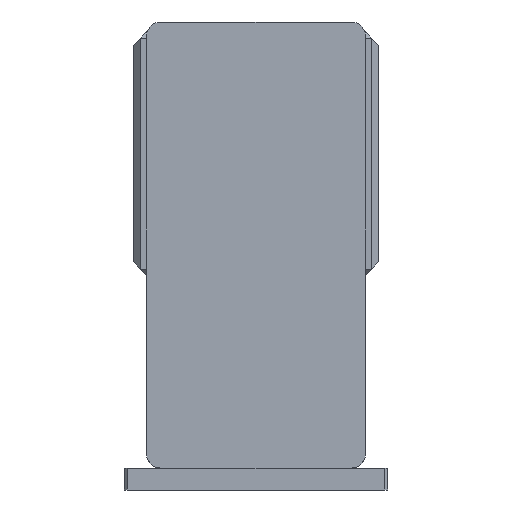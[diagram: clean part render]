
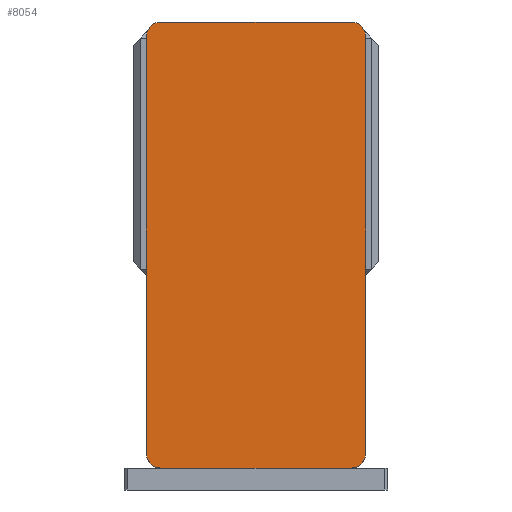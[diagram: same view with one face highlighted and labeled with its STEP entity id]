
A CAD part, left-side view. The second image highlights one B-rep face of the part: STEP entity #8054.
In plain terms, the highlighted planar face has unit normal (-1, 0, 0) as drawn and (0, 0, 1) by its records, which use the part's own axes.
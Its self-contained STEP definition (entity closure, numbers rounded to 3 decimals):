
#161 = EDGE_CURVE ( 'NONE', #5710, #7046, #5754, .T. ) ;
#173 = EDGE_CURVE ( 'NONE', #8899, #3454, #3217, .T. ) ;
#189 = EDGE_CURVE ( 'NONE', #3679, #5710, #2955, .T. ) ;
#249 = EDGE_CURVE ( 'NONE', #2579, #8899, #9543, .T. ) ;
#270 = EDGE_CURVE ( 'NONE', #9433, #1104, #309, .T. ) ;
#309 = CIRCLE ( 'NONE', #3494, 10. ) ;
#336 = EDGE_CURVE ( 'NONE', #3454, #3679, #4158, .T. ) ;
#606 = VECTOR ( 'NONE', #8325, 1000. ) ;
#644 = CARTESIAN_POINT ( 'NONE',  ( 65., 152.5, 105. ) ) ;
#1053 = CARTESIAN_POINT ( 'NONE',  ( 65., -152.5, 105. ) ) ;
#1104 = VERTEX_POINT ( 'NONE', #3841 ) ;
#1120 = EDGE_LOOP ( 'NONE', ( #3099, #5139, #6514, #4836, #9006, #8127, #9709, #6481 ) ) ;
#1284 = LINE ( 'NONE', #7923, #3315 ) ;
#1337 = CARTESIAN_POINT ( 'NONE',  ( 75., -142.5, 105. ) ) ;
#1547 = PLANE ( 'NONE',  #6896 ) ;
#1662 = CARTESIAN_POINT ( 'NONE',  ( 75., 142.5, 105. ) ) ;
#2043 = CARTESIAN_POINT ( 'NONE',  ( -75., -142.5, 105. ) ) ;
#2254 = CARTESIAN_POINT ( 'NONE',  ( -75., 142.5, 105. ) ) ;
#2354 = DIRECTION ( 'NONE',  ( 1., 0., 0. ) ) ;
#2392 = DIRECTION ( 'NONE',  ( 0., 0., 1. ) ) ;
#2413 = CARTESIAN_POINT ( 'NONE',  ( 0., 0., 105. ) ) ;
#2469 = CARTESIAN_POINT ( 'NONE',  ( 65., 142.5, 105. ) ) ;
#2535 = CARTESIAN_POINT ( 'NONE',  ( -65., 152.5, 105. ) ) ;
#2579 = VERTEX_POINT ( 'NONE', #1053 ) ;
#2779 = DIRECTION ( 'NONE',  ( 1., 0., 0. ) ) ;
#2955 = LINE ( 'NONE', #10574, #606 ) ;
#3099 = ORIENTED_EDGE ( 'NONE', *, *, #11069, .T. ) ;
#3217 = LINE ( 'NONE', #9428, #7784 ) ;
#3277 = DIRECTION ( 'NONE',  ( 0., 0., 1. ) ) ;
#3305 = FACE_OUTER_BOUND ( 'NONE', #1120, .T. ) ;
#3315 = VECTOR ( 'NONE', #2779, 1000. ) ;
#3342 = AXIS2_PLACEMENT_3D ( 'NONE', #2469, #2392, #2354 ) ;
#3454 = VERTEX_POINT ( 'NONE', #1662 ) ;
#3494 = AXIS2_PLACEMENT_3D ( 'NONE', #4613, #4571, #4545 ) ;
#3637 = AXIS2_PLACEMENT_3D ( 'NONE', #5945, #5907, #5841 ) ;
#3679 = VERTEX_POINT ( 'NONE', #644 ) ;
#3841 = CARTESIAN_POINT ( 'NONE',  ( -65., -152.5, 105. ) ) ;
#3872 = AXIS2_PLACEMENT_3D ( 'NONE', #4874, #8360, #10948 ) ;
#4158 = CIRCLE ( 'NONE', #3342, 10. ) ;
#4215 = VECTOR ( 'NONE', #8345, 1000. ) ;
#4545 = DIRECTION ( 'NONE',  ( 1., 0., 0. ) ) ;
#4571 = DIRECTION ( 'NONE',  ( 0., 0., 1. ) ) ;
#4613 = CARTESIAN_POINT ( 'NONE',  ( -65., -142.5, 105. ) ) ;
#4836 = ORIENTED_EDGE ( 'NONE', *, *, #336, .T. ) ;
#4874 = CARTESIAN_POINT ( 'NONE',  ( -65., 142.5, 105. ) ) ;
#5139 = ORIENTED_EDGE ( 'NONE', *, *, #249, .T. ) ;
#5710 = VERTEX_POINT ( 'NONE', #2535 ) ;
#5754 = CIRCLE ( 'NONE', #3872, 10. ) ;
#5841 = DIRECTION ( 'NONE',  ( 1., 0., 0. ) ) ;
#5907 = DIRECTION ( 'NONE',  ( 0., 0., 1. ) ) ;
#5945 = CARTESIAN_POINT ( 'NONE',  ( 65., -142.5, 105. ) ) ;
#6481 = ORIENTED_EDGE ( 'NONE', *, *, #270, .T. ) ;
#6514 = ORIENTED_EDGE ( 'NONE', *, *, #173, .T. ) ;
#6896 = AXIS2_PLACEMENT_3D ( 'NONE', #2413, #3277, #9304 ) ;
#7046 = VERTEX_POINT ( 'NONE', #2254 ) ;
#7784 = VECTOR ( 'NONE', #9662, 1000. ) ;
#7923 = CARTESIAN_POINT ( 'NONE',  ( -75., -152.5, 105. ) ) ;
#8054 = ADVANCED_FACE ( 'NONE', ( #3305 ), #1547, .T. ) ;
#8127 = ORIENTED_EDGE ( 'NONE', *, *, #161, .T. ) ;
#8325 = DIRECTION ( 'NONE',  ( -1., 0., 0. ) ) ;
#8345 = DIRECTION ( 'NONE',  ( 0., -1., 0. ) ) ;
#8360 = DIRECTION ( 'NONE',  ( 0., 0., 1. ) ) ;
#8899 = VERTEX_POINT ( 'NONE', #1337 ) ;
#9006 = ORIENTED_EDGE ( 'NONE', *, *, #189, .T. ) ;
#9304 = DIRECTION ( 'NONE',  ( 1., 0., 0. ) ) ;
#9428 = CARTESIAN_POINT ( 'NONE',  ( 75., 152.5, 105. ) ) ;
#9433 = VERTEX_POINT ( 'NONE', #2043 ) ;
#9543 = CIRCLE ( 'NONE', #3637, 10. ) ;
#9662 = DIRECTION ( 'NONE',  ( 0., 1., 0. ) ) ;
#9709 = ORIENTED_EDGE ( 'NONE', *, *, #10367, .T. ) ;
#10367 = EDGE_CURVE ( 'NONE', #7046, #9433, #11005, .T. ) ;
#10574 = CARTESIAN_POINT ( 'NONE',  ( -75., 152.5, 105. ) ) ;
#10892 = CARTESIAN_POINT ( 'NONE',  ( -75., 152.5, 105. ) ) ;
#10948 = DIRECTION ( 'NONE',  ( 1., 0., 0. ) ) ;
#11005 = LINE ( 'NONE', #10892, #4215 ) ;
#11069 = EDGE_CURVE ( 'NONE', #1104, #2579, #1284, .T. ) ;
